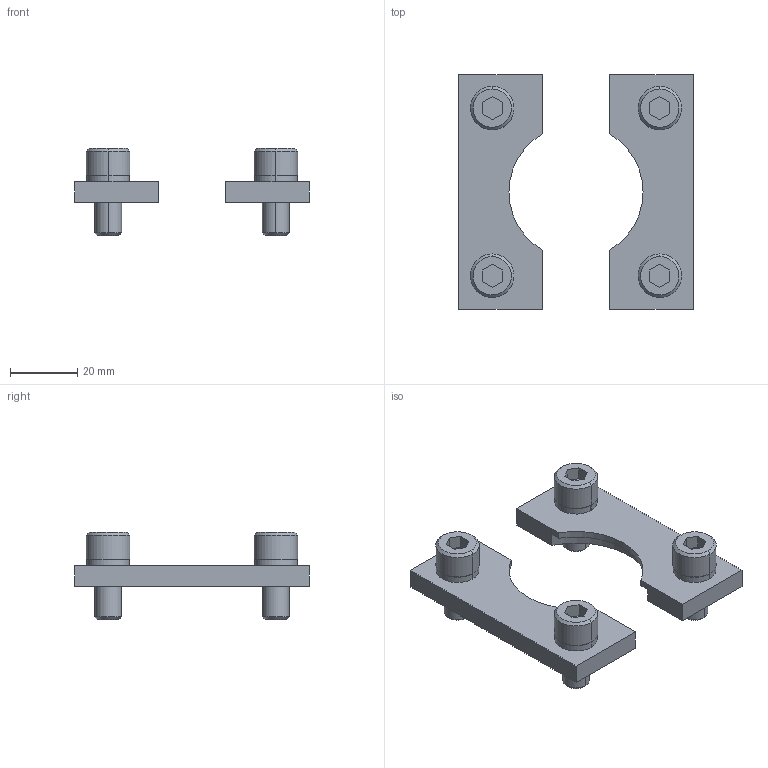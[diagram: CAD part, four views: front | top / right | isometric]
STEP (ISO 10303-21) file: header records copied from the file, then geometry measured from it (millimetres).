
FILE_DESCRIPTION(/* description */ (''),/* implementation_level */ '2;1');
FILE_NAME(/* name */ '3d_sf45_05184_r00.stp',/* time_stamp */ '2011-01-10T14:11:14+09:00',/* author */ ('MISUMI'),/* organization */ (''),/* preprocessor_version */ 'ST-DEVELOPER v11',/* originating_system */ 'UGS - NX 5.0',/* authorisation */ '');
FILE_SCHEMA (('CONFIG_CONTROL_DESIGN'));
Length unit declared in the file: millimetre
Products named in the file (1): 3d_sf45_05184_r00
Bounding box: 70 x 70 x 26 mm (x, y, z)
Volume: 23489.7 mm3; surface area: 14104.1 mm2
Topology: 10 solids, 10 shells, 136 faces, 304 edges, 196 vertices
Faces by surface type: plane 76, cylinder 44, cone 16
Entity records: 3856 total; most frequent: DIRECTION 682, CARTESIAN_POINT 637, ORIENTED_EDGE 608, EDGE_CURVE 304, AXIS2_PLACEMENT_3D 241, LINE 200, VECTOR 200, VERTEX_POINT 196
